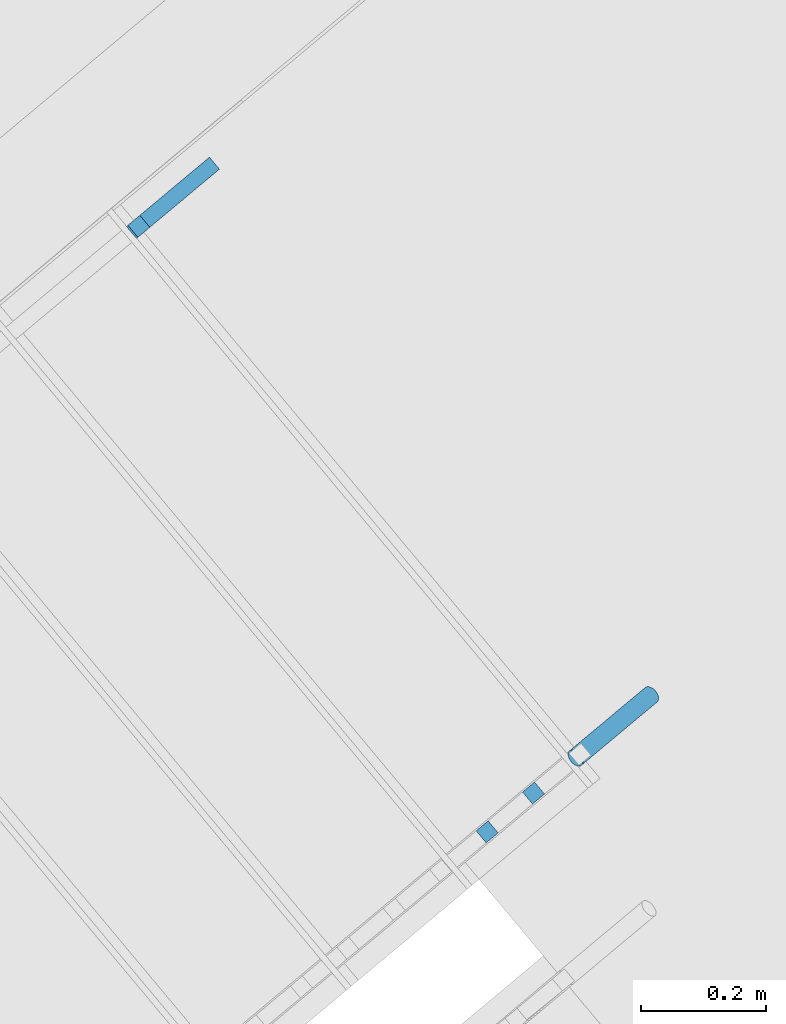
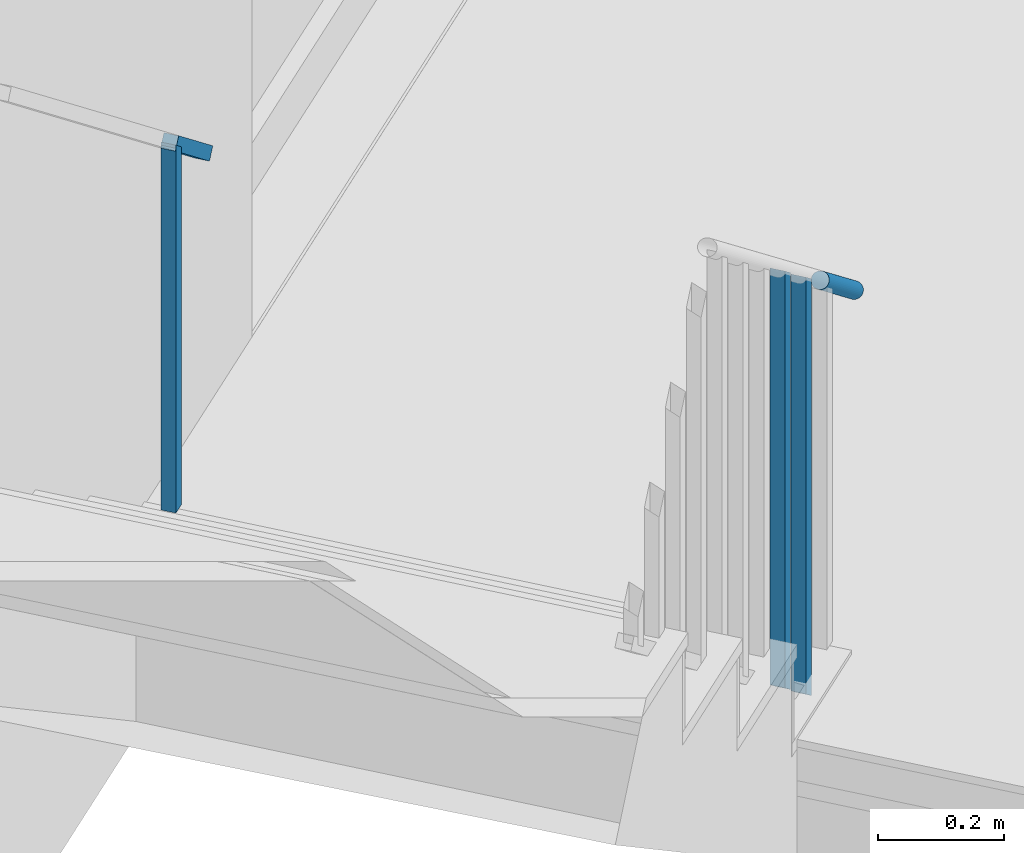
# One storey, part 42 of 50: 5 building element parts, 2 elements without a shape of their own.
"""IFC4 building model written with IfcOpenShell, lengths in metres."""

from ifc_helpers import new_model, entity, si_unit, converted_unit, derived_unit, direction, frame, origin_with_axes, place, context, subcontext, project, spatial, polygons, material, type_object, element, aggregate, save


model = new_model("IFC4")

# Units and contexts
model_context = context("Model", 3, precision=1e-05, world=origin_with_axes(), true_north=direction((0.0, 1.0)))
body_context = subcontext(model_context, "Body", "Model", "MODEL_VIEW")
ifc_project = project(units=[si_unit("LENGTHUNIT", "METRE"), si_unit("AREAUNIT", "SQUARE_METRE"), si_unit("VOLUMEUNIT", "CUBIC_METRE"), converted_unit("PLANEANGLEUNIT", "DEGREE", entity("IfcPlaneAngleMeasure", 0.0174532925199), si_unit("PLANEANGLEUNIT", "RADIAN"), dimensions=[0, 0, 0, 0, 0, 0, 0]), converted_unit("TIMEUNIT", "Year", entity("IfcTimeMeasure", 31556926.0), si_unit("TIMEUNIT", "SECOND"), dimensions=[0, 0, 1, 0, 0, 0, 0]), si_unit("MASSUNIT", "GRAM", prefix="KILO"), si_unit("THERMODYNAMICTEMPERATUREUNIT", "DEGREE_CELSIUS"), si_unit("LUMINOUSINTENSITYUNIT", "LUMEN"), si_unit("ENERGYUNIT", "JOULE", prefix="MEGA"), derived_unit("THERMALCONDUCTANCEUNIT", [(si_unit("POWERUNIT", "WATT"), 1), (si_unit("LENGTHUNIT", "METRE"), -1), (si_unit("THERMODYNAMICTEMPERATUREUNIT", "KELVIN"), -1)]), derived_unit("SPECIFICHEATCAPACITYUNIT", [(si_unit("ENERGYUNIT", "JOULE"), 1), (si_unit("MASSUNIT", "GRAM", prefix="KILO"), -1), (si_unit("THERMODYNAMICTEMPERATUREUNIT", "KELVIN"), -1)]), derived_unit("MASSDENSITYUNIT", [(si_unit("MASSUNIT", "GRAM", prefix="KILO"), 1), (si_unit("VOLUMEUNIT", "CUBIC_METRE"), -1)])], contexts=[model_context])

# Site, building, storey
site_placement = place(None, frame((-0.00153261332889, -0.00661245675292, 0.0), z_axis=(0.0, 0.0, 1.0), x_axis=(1.0, 0.0, 0.0)))
site = spatial("IfcSite", under=ifc_project, at=site_placement, Name="Site", CompositionType="ELEMENT")
building_placement = place(site_placement, origin_with_axes())
building = spatial("IfcBuilding", under=site, at=building_placement, Name="Building", CompositionType="ELEMENT")
storey_placement = place(building_placement, frame((0.0, 0.0, 2.74), z_axis=(0.0, 0.0, 1.0), x_axis=(1.0, 0.0, 0.0)))
storey = spatial("IfcBuildingStorey", under=building, at=storey_placement, Name="OG1", CompositionType="ELEMENT", Elevation=2.74)

# Railing, building element parts
railing_type = type_object("IfcRailingType", Name="Geländerart", PredefinedType="NOTDEFINED")
railing_1_placement = place(storey_placement, frame((-0.398547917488, 23.8355657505, 0.05), z_axis=(0.0, 0.0, 1.0), x_axis=(1.0, 0.0, 0.0)))
railing_1 = element("IfcRailing", 1, at=railing_1_placement, inside=storey, type_object=railing_type, Name="Geländer - 001", PredefinedType="NOTDEFINED")
ifc_material = material(Name="BEKLEIDUNG")
building_element_part_1_placement = place(railing_1_placement, origin_with_axes())
building_element_part_1 = element("IfcBuildingElementPart", 2, at=building_element_part_1_placement, material=ifc_material, Name="BEKLEIDUNG", PredefinedType="NOTDEFINED", context=body_context, shape_type="Tessellation", body=[
    polygons([(-0.0487538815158, 0.0439673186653, 0.88817063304), (-0.0473787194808, 0.0448193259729, 0.890224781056), (0.073659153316, 0.145947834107, 0.767249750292), (0.0722839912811, 0.1450958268, 0.765195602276), (-0.0498368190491, 0.0427655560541, 0.886116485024), (-0.0505946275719, 0.0412505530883, 0.884124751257), (-0.0510042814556, 0.0394683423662, 0.88225594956), (-0.0510533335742, 0.0374730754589, 0.880566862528), (-0.050740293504, 0.0353253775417, 0.879108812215), (-0.0500746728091, 0.0330905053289, 0.877926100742), (-0.0490766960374, 0.030836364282, 0.877054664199), (-0.0477766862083, 0.0286314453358, 0.876520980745), (-0.0462141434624, 0.026542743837, 0.87634126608), (-0.0444365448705, 0.0246337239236, 0.876520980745), (-0.0424979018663, 0.0229623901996, 0.877054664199), (-0.0404571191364, 0.0215795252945, 0.877926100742), (-0.0383762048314, 0.0205271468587, 0.879108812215), (-0.0363183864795, 0.0198372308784, 0.880566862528), (-0.03434618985, 0.0195307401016, 0.88225594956), (-0.0325195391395, 0.0196169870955, 0.884124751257), (-0.0308939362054, 0.0200933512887, 0.886116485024), (-0.0295187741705, 0.0209453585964, 0.88817063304), (-0.0284358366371, 0.0221471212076, 0.890224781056), (-0.0276780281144, 0.0236621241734, 0.892216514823), (-0.0272683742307, 0.0254443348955, 0.89408531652), (-0.0272193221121, 0.0274396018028, 0.895774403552), (-0.0275323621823, 0.02958729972, 0.897232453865), (-0.0281979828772, 0.0318221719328, 0.898415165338), (-0.0291959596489, 0.0340763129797, 0.899286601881), (-0.030495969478, 0.0362812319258, 0.899820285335), (-0.0320585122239, 0.0383699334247, 0.9), (-0.0338361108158, 0.0402789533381, 0.899820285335), (-0.03577475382, 0.0419502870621, 0.899286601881), (-0.0378155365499, 0.0433331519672, 0.898415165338), (-0.0398964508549, 0.044385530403, 0.897232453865), (-0.0419542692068, 0.0450754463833, 0.895774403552), (-0.0439264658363, 0.04538193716, 0.89408531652), (-0.0457531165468, 0.0452956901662, 0.892216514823), (0.0752847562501, 0.146424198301, 0.76924148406), (0.0771114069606, 0.146510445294, 0.771110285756), (0.0790836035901, 0.146203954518, 0.772799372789), (0.081141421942, 0.145514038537, 0.774257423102), (0.083222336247, 0.144461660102, 0.775440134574), (0.0852631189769, 0.143078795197, 0.776311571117), (0.0872017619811, 0.141407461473, 0.776845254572), (0.088979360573, 0.139498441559, 0.777024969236), (0.0905419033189, 0.13740974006, 0.776845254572), (0.091841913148, 0.135204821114, 0.776311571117), (0.0928398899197, 0.132950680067, 0.775440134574), (0.0935055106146, 0.130715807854, 0.774257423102), (0.0938185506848, 0.128568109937, 0.772799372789), (0.0937694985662, 0.12657284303, 0.771110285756), (0.0933598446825, 0.124790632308, 0.76924148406), (0.0926020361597, 0.123275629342, 0.767249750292), (0.0915190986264, 0.122073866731, 0.765195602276), (0.0901439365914, 0.121221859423, 0.763141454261), (0.0885183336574, 0.12074549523, 0.761149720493), (0.0866916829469, 0.120659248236, 0.759280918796), (0.0847194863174, 0.120965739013, 0.757591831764), (0.0826616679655, 0.121655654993, 0.756133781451), (0.0805807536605, 0.122708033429, 0.754951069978), (0.0785399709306, 0.124090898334, 0.754079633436), (0.0766013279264, 0.125762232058, 0.753545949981), (0.0748237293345, 0.127671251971, 0.753366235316), (0.0732611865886, 0.12975995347, 0.753545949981), (0.0719611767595, 0.131964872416, 0.754079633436), (0.0709631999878, 0.134219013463, 0.754951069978), (0.0702975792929, 0.136453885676, 0.756133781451), (0.0699845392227, 0.138601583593, 0.757591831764), (0.0700335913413, 0.140596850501, 0.759280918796), (0.070443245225, 0.142379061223, 0.761149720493), (0.0712010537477, 0.143894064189, 0.763141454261)], [[[1, 2, 3, 4]], [[1, 5, 6, 7, 8, 9, 10, 11, 12, 13, 14, 15, 16, 17, 18, 19, 20, 21, 22, 23, 24, 25, 26, 27, 28, 29, 30, 31, 32, 33, 34, 35, 36, 37, 38, 2]], [[2, 38, 39, 3]], [[4, 3, 39, 40, 41, 42, 43, 44, 45, 46, 47, 48, 49, 50, 51, 52, 53, 54, 55, 56, 57, 58, 59, 60, 61, 62, 63, 64, 65, 66, 67, 68, 69, 70, 71, 72]], [[5, 1, 4, 72]], [[6, 5, 72, 71]], [[7, 6, 71, 70]], [[8, 7, 70, 69]], [[9, 8, 69, 68]], [[10, 9, 68, 67]], [[11, 10, 67, 66]], [[12, 11, 66, 65]], [[13, 12, 65, 64]], [[14, 13, 64, 63]], [[15, 14, 63, 62]], [[16, 15, 62, 61]], [[17, 16, 61, 60]], [[18, 17, 60, 59]], [[19, 18, 59, 58]], [[20, 19, 58, 57]], [[21, 20, 57, 56]], [[22, 21, 56, 55]], [[23, 22, 55, 54]], [[24, 23, 54, 53]], [[25, 24, 53, 52]], [[26, 25, 52, 51]], [[27, 26, 51, 50]], [[28, 27, 50, 49]], [[29, 28, 49, 48]], [[30, 29, 48, 47]], [[31, 30, 47, 46]], [[32, 31, 46, 45]], [[33, 32, 45, 44]], [[34, 33, 44, 43]], [[35, 34, 43, 42]], [[36, 35, 42, 41]], [[37, 36, 41, 40]], [[38, 37, 40, 39]]], closed=True),
])
building_element_part_2_placement = place(railing_1_placement, origin_with_axes())
building_element_part_2 = element("IfcBuildingElementPart", 3, at=building_element_part_2_placement, material=ifc_material, Name="BEKLEIDUNG", PredefinedType="NOTDEFINED", context=body_context, shape_type="Tessellation", body=[
    polygons([(-0.123876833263, -0.0220565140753, 0.155144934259), (-0.107847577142, -0.0412414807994, 0.155144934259), (-0.107847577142, -0.0412414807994, 0.962644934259), (-0.123876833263, -0.0220565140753, 0.962644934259), (-0.104691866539, -0.00602725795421, 0.135652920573), (-0.0886626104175, -0.0252122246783, 0.135652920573), (-0.0886626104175, -0.0252122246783, 0.943152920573), (-0.104691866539, -0.00602725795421, 0.943152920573)], [[[1, 2, 3, 4]], [[1, 5, 6, 2]], [[2, 6, 7, 3]], [[4, 3, 7, 8]], [[5, 1, 4, 8]], [[6, 5, 8, 7]]], closed=True),
])
building_element_part_3_placement = place(railing_1_placement, origin_with_axes())
building_element_part_3 = element("IfcBuildingElementPart", 4, at=building_element_part_3_placement, material=ifc_material, Name="BEKLEIDUNG", PredefinedType="NOTDEFINED", context=body_context, shape_type="Tessellation", body=[
    polygons([(-0.198088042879, -0.0840608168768, 0.230543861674), (-0.182058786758, -0.103245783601, 0.230543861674), (-0.182058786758, -0.103245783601, 1.03804386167), (-0.198088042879, -0.0840608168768, 1.03804386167), (-0.178903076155, -0.0680315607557, 0.211051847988), (-0.162873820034, -0.0872165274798, 0.211051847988), (-0.162873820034, -0.0872165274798, 1.01855184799), (-0.178903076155, -0.0680315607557, 1.01855184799)], [[[1, 2, 3, 4]], [[1, 5, 6, 2]], [[2, 6, 7, 3]], [[4, 3, 7, 8]], [[5, 1, 4, 8]], [[6, 5, 8, 7]]], closed=True),
])
aggregate(railing_1, [building_element_part_1, building_element_part_2, building_element_part_3])

railing_2_placement = place(storey_placement, frame((-1.16795221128, 24.7564441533, 0.05), z_axis=(0.0, 0.0, 1.0), x_axis=(1.0, 0.0, 0.0)))
railing_2 = element("IfcRailing", 5, at=railing_2_placement, inside=storey, type_object=railing_type, Name="Geländer - 001", PredefinedType="NOTDEFINED")
building_element_part_4_placement = place(railing_2_placement, origin_with_axes())
building_element_part_4 = element("IfcBuildingElementPart", 6, at=building_element_part_4_placement, material=ifc_material, Name="BEKLEIDUNG", PredefinedType="NOTDEFINED", context=body_context, shape_type="Tessellation", body=[
    polygons([(0.0144514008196, -0.0367920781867, 0.177058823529), (0.0304806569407, -0.0559770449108, 0.177058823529), (0.0304806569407, -0.0559770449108, 0.88977053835), (0.0144514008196, -0.0367920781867, 0.88977053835), (0.0336363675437, -0.0207628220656, 0.177058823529), (0.0496656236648, -0.0399477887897, 0.177058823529), (0.0496656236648, -0.0399477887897, 0.87022946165), (0.0336363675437, -0.0207628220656, 0.87022946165)], [[[1, 2, 3, 4]], [[1, 5, 6, 2]], [[2, 6, 7, 3]], [[4, 3, 7, 8]], [[5, 1, 4, 8]], [[6, 5, 8, 7]]], closed=True),
])
building_element_part_5_placement = place(railing_2_placement, origin_with_axes())
building_element_part_5 = element("IfcBuildingElementPart", 7, at=building_element_part_5_placement, material=ifc_material, Name="BEKLEIDUNG", PredefinedType="NOTDEFINED", context=body_context, shape_type="Tessellation", body=[
    polygons([(0.0400731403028, -0.0479624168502, 0.9), (0.0282583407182, -0.0578338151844, 0.880303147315), (0.149181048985, 0.0431984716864, 0.757135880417), (0.16099584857, 0.0530698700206, 0.776832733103), (0.0240438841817, -0.0287774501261, 0.9), (0.0122290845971, -0.0386488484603, 0.880303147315), (0.133151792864, 0.0623834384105, 0.757135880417), (0.144966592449, 0.0722548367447, 0.776832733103)], [[[1, 2, 3, 4]], [[1, 5, 6, 2]], [[2, 6, 7, 3]], [[4, 3, 7, 8]], [[5, 1, 4, 8]], [[6, 5, 8, 7]]], closed=True),
])
aggregate(railing_2, [building_element_part_4, building_element_part_5])

save(model, "model.ifc")
